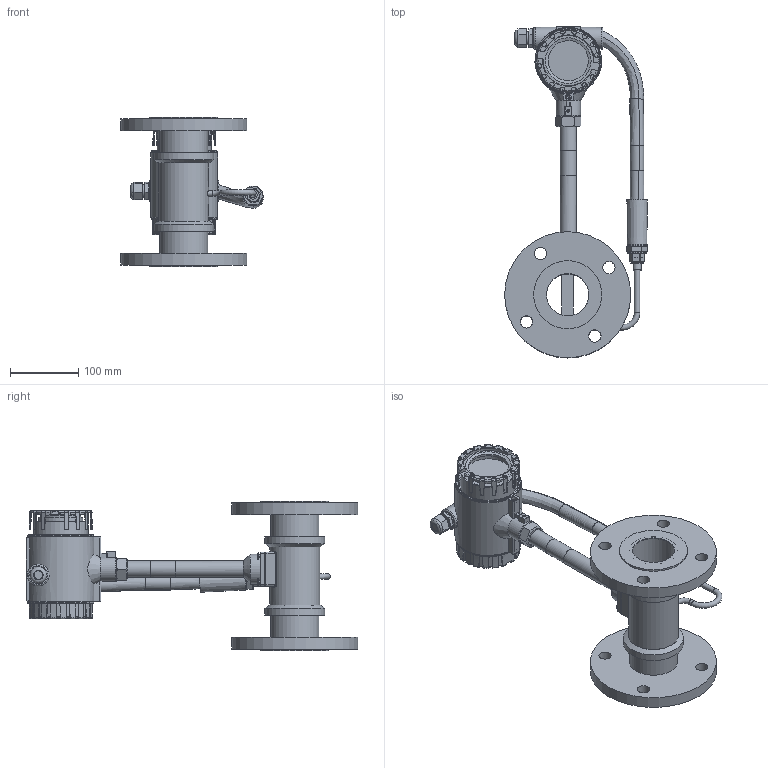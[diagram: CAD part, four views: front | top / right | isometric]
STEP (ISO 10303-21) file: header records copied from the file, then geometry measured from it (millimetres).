
FILE_DESCRIPTION(/* description */ ('STEP AP214'),/* implementation_level */ '2;1');
FILE_NAME(/* name */ 'DN65 vortex.step',/* time_stamp */ '2025-09-10T17:25:09+03:00',/* author */ (''),/* organization */ (''),/* preprocessor_version */ 'ST-DEVELOPER v20.1',/* originating_system */ 'Autodesk Translation Framework v14.10.0.0',/* authorisation */ '');
FILE_SCHEMA (('AUTOMOTIVE_DESIGN { 1 0 10303 214 3 1 1 }'));
Length unit declared in the file: millimetre
Products named in the file (1): DN100法兰连接装配体
Bounding box: 209.37 x 486.83 x 220.01 mm (x, y, z)
Volume: 1776074.6 mm3; surface area: 497923.8 mm2
Topology: 24 solids, 25 shells, 912 faces, 2255 edges, 1429 vertices
Faces by surface type: plane 519, cylinder 244, torus 61, cone 49, bspline 35, sphere 4
Full cylindrical faces by diameter (mm): 3.2 x1, 3.3 x1, 3.65 x2, 4.2 x10, 6 x12, 8 x4, 8.7 x2, 9 x1, 10 x1, 12 x1, 12.4 x1, 13 x1, 14 x1, 16 x2, 17.727 x4, 18 x13, 19 x7, 19.2 x2, 20 x1, 20.6 x1, 20.655 x1, 22.6 x1, 24 x2, 24.2 x1, 28 x2, 31.9 x2, 38 x1, 44 x1, 59 x1, 62 x3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
Entity records: 31756 total; most frequent: CARTESIAN_POINT 9645, DIRECTION 4789, ORIENTED_EDGE 4488, EDGE_CURVE 2244, AXIS2_PLACEMENT_3D 1816, VERTEX_POINT 1429, LINE 1157, VECTOR 1157
